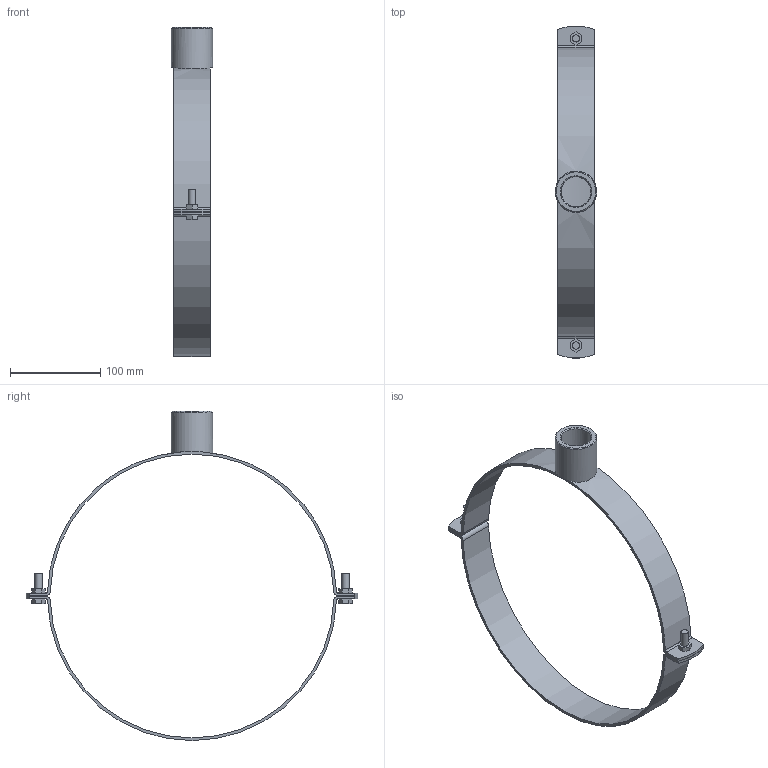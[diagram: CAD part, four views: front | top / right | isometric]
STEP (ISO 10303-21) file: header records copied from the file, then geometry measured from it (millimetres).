
FILE_DESCRIPTION(/* description */ (''),/* implementation_level */ '2;1');
FILE_NAME(/* name */ 'H:\Geberit-Teile\Export\Rohrschelle G1\stp\372840.stp',/* time_stamp */ '2018-06-13T08:49:31+02:00',/* author */ ('seihe2'),/* organization */ (''),/* preprocessor_version */ 'ST-DEVELOPER v15.2',/* originating_system */ 'Autodesk Inventor 2014',/* authorisation */ '');
FILE_SCHEMA (('AUTOMOTIVE_DESIGN { 1 0 10303 214 3 1 1 }'));
Length unit declared in the file: millimetre
Products named in the file (1): 372840
Bounding box: 46 x 368.66 x 365.5 mm (x, y, z)
Volume: 170385.6 mm3; surface area: 106463.6 mm2
Topology: 1 solids, 1 shells, 71 faces, 176 edges, 116 vertices
Faces by surface type: plane 43, cylinder 26, cone 2
Full cylindrical faces by diameter (mm): 8 x4, 33.249 x1, 46 x1
Entity records: 2284 total; most frequent: CARTESIAN_POINT 494, DIRECTION 352, ORIENTED_EDGE 332, EDGE_CURVE 166, AXIS2_PLACEMENT_3D 120, VERTEX_POINT 114, LINE 112, VECTOR 112
